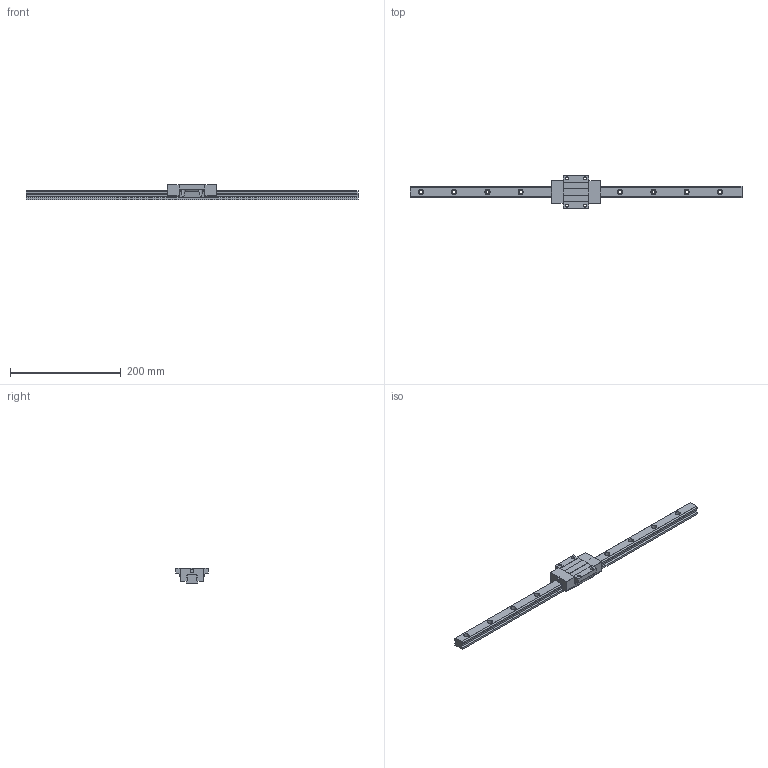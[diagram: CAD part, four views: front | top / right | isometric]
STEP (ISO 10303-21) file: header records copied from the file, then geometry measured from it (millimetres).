
FILE_DESCRIPTION (( 'STEP AP203' ), '1' );
FILE_NAME ('TRS20FN-WZ-§ï.STEP', '2023-08-31T05:11:19', ( '' ), ( '' ), 'SwSTEP 2.0', 'SolidWorks 2022', '' );
FILE_SCHEMA (( 'CONFIG_CONTROL_DESIGN' ));
Length unit declared in the file: millimetre
Products named in the file (1): TRS20FN-WZ-改
Bounding box: 600 x 59 x 28 mm (x, y, z)
Volume: 239387.6 mm3; surface area: 63636.5 mm2
Topology: 1 solids, 1 shells, 216 faces, 598 edges, 388 vertices
Faces by surface type: cylinder 116, plane 96, sphere 4
Entity records: 7243 total; most frequent: CARTESIAN_POINT 1475, DIRECTION 1212, ORIENTED_EDGE 1188, EDGE_CURVE 594, AXIS2_PLACEMENT_3D 429, VERTEX_POINT 388, LINE 354, VECTOR 354
